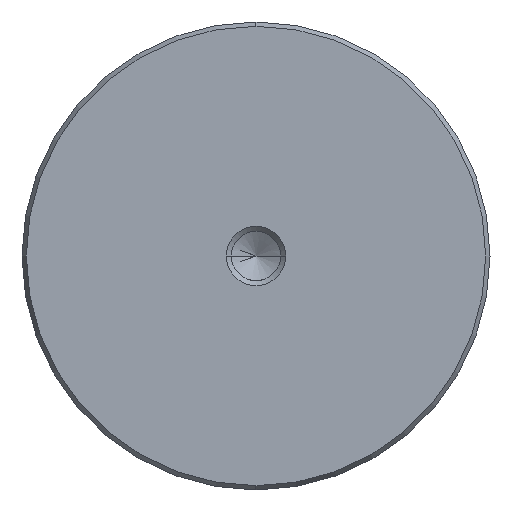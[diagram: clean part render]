
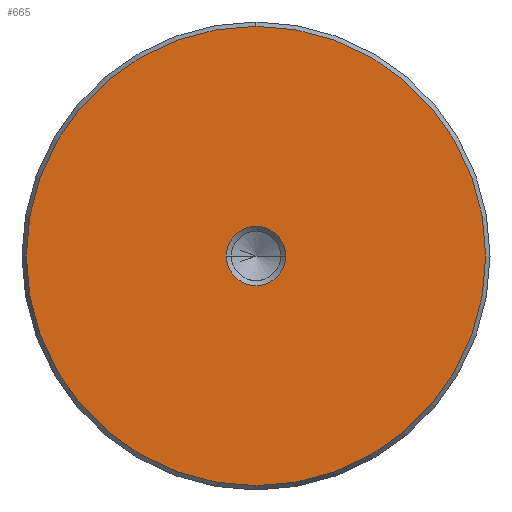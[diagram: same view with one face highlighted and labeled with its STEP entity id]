
A CAD part, left-side view. The second image highlights one B-rep face of the part: STEP entity #665.
In plain terms, the highlighted planar face has unit normal (-1, 0, 0).
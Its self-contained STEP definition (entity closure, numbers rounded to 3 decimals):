
#579=CARTESIAN_POINT('Vertex',(0.,0.,-30.923)) ;
#582=CARTESIAN_POINT('Axis2P3D Location',(0.,0.,0.)) ;
#586=CARTESIAN_POINT('Vertex',(0.,30.923,0.)) ;
#589=CARTESIAN_POINT('Axis2P3D Location',(0.,0.,0.)) ;
#593=CARTESIAN_POINT('Vertex',(0.,0.,30.923)) ;
#615=CARTESIAN_POINT('Axis2P3D Location',(0.,0.,0.)) ;
#619=CARTESIAN_POINT('Vertex',(0.,-30.923,0.)) ;
#622=CARTESIAN_POINT('Axis2P3D Location',(0.,0.,0.)) ;
#636=CARTESIAN_POINT('Axis2P3D Location',(0.,0.,0.)) ;
#647=CARTESIAN_POINT('Axis2P3D Location',(0.,0.,0.)) ;
#651=CARTESIAN_POINT('Vertex',(0.,4.,0.)) ;
#653=CARTESIAN_POINT('Vertex',(0.,-4.,0.)) ;
#656=CARTESIAN_POINT('Axis2P3D Location',(0.,0.,0.)) ;
#583=DIRECTION('Axis2P3D Direction',(1.,0.,-0.)) ;
#590=DIRECTION('Axis2P3D Direction',(1.,0.,-0.)) ;
#616=DIRECTION('Axis2P3D Direction',(1.,0.,-0.)) ;
#623=DIRECTION('Axis2P3D Direction',(1.,0.,-0.)) ;
#637=DIRECTION('Axis2P3D Direction',(1.,0.,-0.)) ;
#638=DIRECTION('Axis2P3D XDirection',(-0.,0.,-1.)) ;
#648=DIRECTION('Axis2P3D Direction',(1.,0.,-0.)) ;
#657=DIRECTION('Axis2P3D Direction',(1.,0.,-0.)) ;
#584=AXIS2_PLACEMENT_3D('Circle Axis2P3D',#582,#583,$) ;
#591=AXIS2_PLACEMENT_3D('Circle Axis2P3D',#589,#590,$) ;
#617=AXIS2_PLACEMENT_3D('Circle Axis2P3D',#615,#616,$) ;
#624=AXIS2_PLACEMENT_3D('Circle Axis2P3D',#622,#623,$) ;
#639=AXIS2_PLACEMENT_3D('Plane Axis2P3D',#636,#637,#638) ;
#649=AXIS2_PLACEMENT_3D('Circle Axis2P3D',#647,#648,$) ;
#658=AXIS2_PLACEMENT_3D('Circle Axis2P3D',#656,#657,$) ;
#642=ORIENTED_EDGE('',*,*,#588,.F.) ;
#643=ORIENTED_EDGE('',*,*,#626,.F.) ;
#644=ORIENTED_EDGE('',*,*,#621,.F.) ;
#645=ORIENTED_EDGE('',*,*,#595,.F.) ;
#662=ORIENTED_EDGE('',*,*,#655,.T.) ;
#663=ORIENTED_EDGE('',*,*,#660,.T.) ;
#664=FACE_BOUND('',#661,.T.) ;
#665=ADVANCED_FACE('720-63x355',(#646,#664),#640,.F.) ;
#585=CIRCLE('generated circle',#584,30.923) ;
#592=CIRCLE('generated circle',#591,30.923) ;
#618=CIRCLE('generated circle',#617,30.923) ;
#625=CIRCLE('generated circle',#624,30.923) ;
#650=CIRCLE('generated circle',#649,4.) ;
#659=CIRCLE('generated circle',#658,4.) ;
#588=EDGE_CURVE('',#580,#587,#585,.T.) ;
#595=EDGE_CURVE('',#587,#594,#592,.T.) ;
#621=EDGE_CURVE('',#594,#620,#618,.T.) ;
#626=EDGE_CURVE('',#620,#580,#625,.T.) ;
#655=EDGE_CURVE('',#652,#654,#650,.T.) ;
#660=EDGE_CURVE('',#654,#652,#659,.T.) ;
#641=EDGE_LOOP('',(#642,#643,#644,#645)) ;
#661=EDGE_LOOP('',(#662,#663)) ;
#646=FACE_OUTER_BOUND('',#641,.T.) ;
#640=PLANE('Plane',#639) ;
#580=VERTEX_POINT('',#579) ;
#587=VERTEX_POINT('',#586) ;
#594=VERTEX_POINT('',#593) ;
#620=VERTEX_POINT('',#619) ;
#652=VERTEX_POINT('',#651) ;
#654=VERTEX_POINT('',#653) ;
